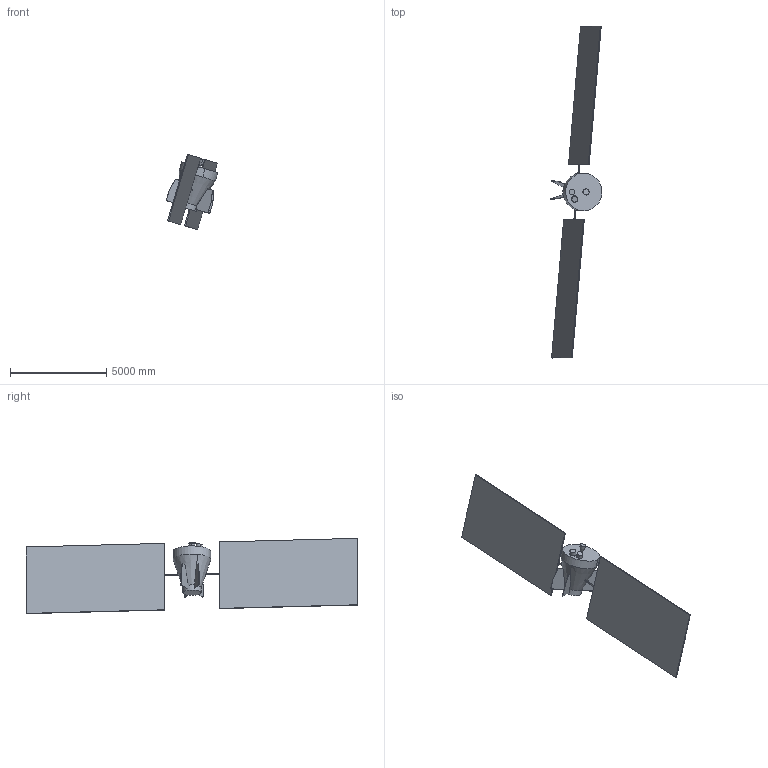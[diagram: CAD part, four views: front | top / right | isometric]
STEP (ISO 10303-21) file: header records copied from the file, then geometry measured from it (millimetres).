
FILE_DESCRIPTION((''),'2;1');
FILE_NAME('MODELLO_DSMC','2007-08-01T',('Utente Microsoft'),(''),'PRO/ENGINEER BY PARAMETRIC TECHNOLOGY CORPORATION, 2004320','PRO/ENGINEER BY PARAMETRIC TECHNOLOGY CORPORATION, 2004320','');
FILE_SCHEMA(('AUTOMOTIVE_DESIGN { 1 2 10303 214 0 1 1 1 }'));
Length unit declared in the file: metre
Products named in the file (1): MODELLO_DSMC
Bounding box: 2685.43 x 17233.43 x 3912.08 mm (x, y, z)
Volume: 6852982437.6 mm3; surface area: 127216391.1 mm2
Topology: 1 solids, 1 shells, 65 faces, 168 edges, 110 vertices
Faces by surface type: plane 47, cylinder 12, cone 4, revolution 2
Entity records: 2601 total; most frequent: CARTESIAN_POINT 450, ORIENTED_EDGE 336, DIRECTION 320, PRESENTATION_STYLE_ASSIGNMENT 169, STYLED_ITEM 169, CURVE_STYLE 168, EDGE_CURVE 168, VERTEX_POINT 110
